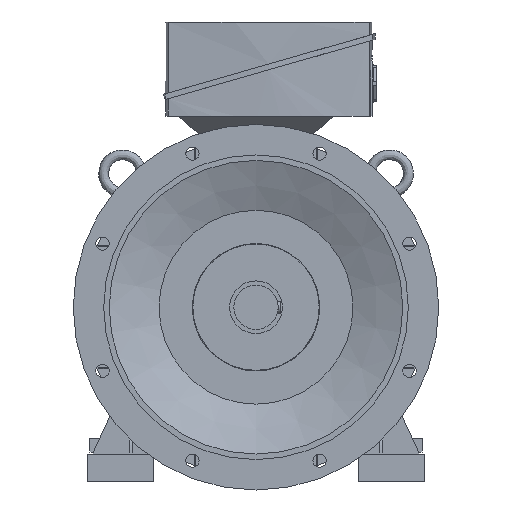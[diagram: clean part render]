
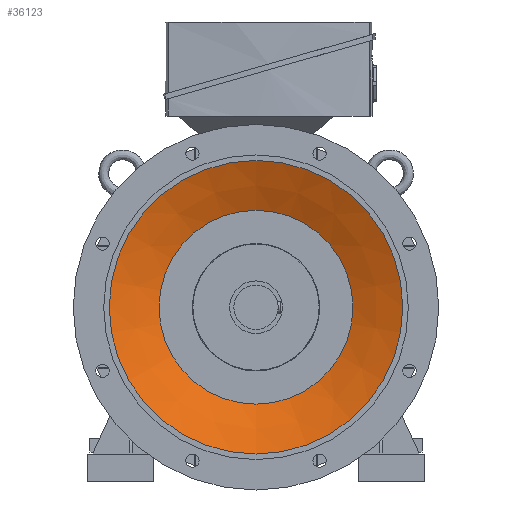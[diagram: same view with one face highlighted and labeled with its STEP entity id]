
A CAD part, left-side view. The second image highlights one B-rep face of the part: STEP entity #36123.
In plain terms, the highlighted conical face has half-angle 67.652 degrees and reference radius 265 mm.
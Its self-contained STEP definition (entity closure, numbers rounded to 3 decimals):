
#2683 = AXIS2_PLACEMENT_3D ( 'NONE', #10534, #10535, #10536 ) ;
#6187 = EDGE_LOOP ( 'NONE', ( #48937 ) ) ;
#6263 = EDGE_LOOP ( 'NONE', ( #48938 ) ) ;
#9028 = CIRCLE ( 'NONE', #2683, 175. ) ;
#10534 = CARTESIAN_POINT ( 'NONE',  ( -67., 0., 0. ) ) ;
#10535 = DIRECTION ( 'NONE',  ( -1., 0., 0. ) ) ;
#10536 = DIRECTION ( 'NONE',  ( 0., 0., 1. ) ) ;
#17630 = AXIS2_PLACEMENT_3D ( 'NONE', #23018, #23019, #23020 ) ;
#20785 = CIRCLE ( 'NONE', #17630, 265. ) ;
#21086 = VERTEX_POINT ( 'NONE', #22682 ) ;
#21130 = VERTEX_POINT ( 'NONE', #22707 ) ;
#22682 = CARTESIAN_POINT ( 'NONE',  ( -67., 0., 175. ) ) ;
#22707 = CARTESIAN_POINT ( 'NONE',  ( -104., 0., 265. ) ) ;
#23018 = CARTESIAN_POINT ( 'NONE',  ( -104., 0., 0. ) ) ;
#23019 = DIRECTION ( 'NONE',  ( -1., 0., 0. ) ) ;
#23020 = DIRECTION ( 'NONE',  ( 0., 0., 1. ) ) ;
#34399 = AXIS2_PLACEMENT_3D ( 'NONE', #35196, #35197, #35204 ) ;
#35196 = CARTESIAN_POINT ( 'NONE',  ( -104., 0., 0. ) ) ;
#35197 = DIRECTION ( 'NONE',  ( -1., 0., 0. ) ) ;
#35204 = DIRECTION ( 'NONE',  ( 0., 0., 1. ) ) ;
#36123 = ADVANCED_FACE ( 'NONE', ( #36481, #36485 ), #36490, .F. ) ;
#36481 = FACE_OUTER_BOUND ( 'NONE', #6187, .T. ) ;
#36485 = FACE_BOUND ( 'NONE', #6263, .T. ) ;
#36490 = CONICAL_SURFACE ( 'NONE', #34399, 265., 1.181 ) ;
#43932 = EDGE_CURVE ( 'NONE', #21086, #21086, #9028, .T. ) ;
#48707 = EDGE_CURVE ( 'NONE', #21130, #21130, #20785, .T. ) ;
#48937 = ORIENTED_EDGE ( 'NONE', *, *, #48707, .T. ) ;
#48938 = ORIENTED_EDGE ( 'NONE', *, *, #43932, .F. ) ;
